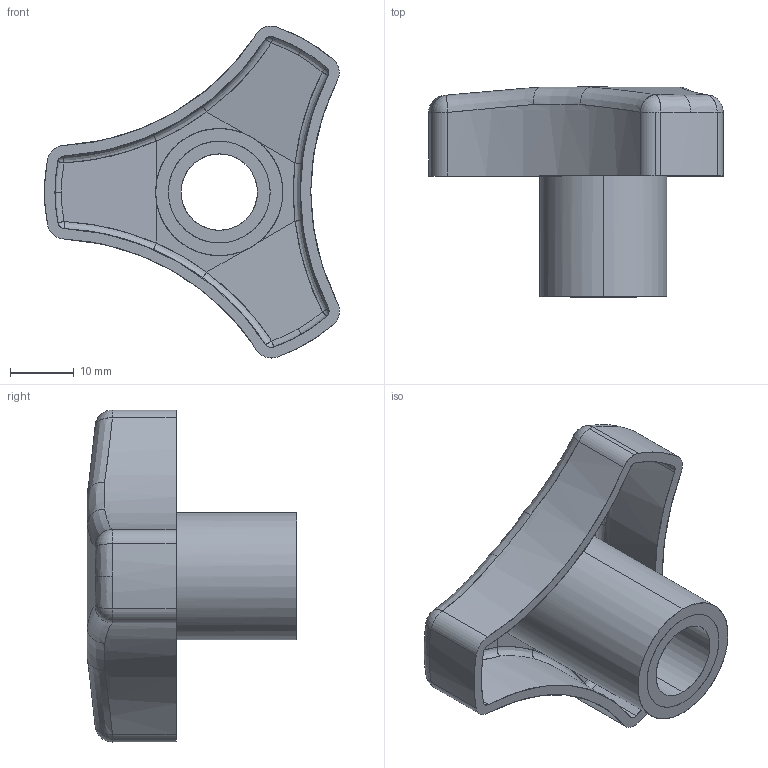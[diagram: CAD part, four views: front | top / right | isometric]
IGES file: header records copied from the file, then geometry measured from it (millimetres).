
Start section: SolidWorks IGES file using analytic representation for surfaces
Global section: file name: C:\Users\IanO\Desktop\Temp File\Process pending\70640_v2\70640_v2_20171022_IGES\70640.W0057.igs; native system: SolidWorks 2017; preprocessor: SolidWorks 2017; author: IanO; date: 171102.143300; units: millimetre
Bounding box: 46.42 x 33 x 52.23 mm (x, y, z)
Surface area: 11040.5 mm2 (no closed solid volume)
Topology: 0 solids, 0 shells, 93 faces, 1157 edges, 1157 vertices
Faces by surface type: revolution 48, bspline 45
